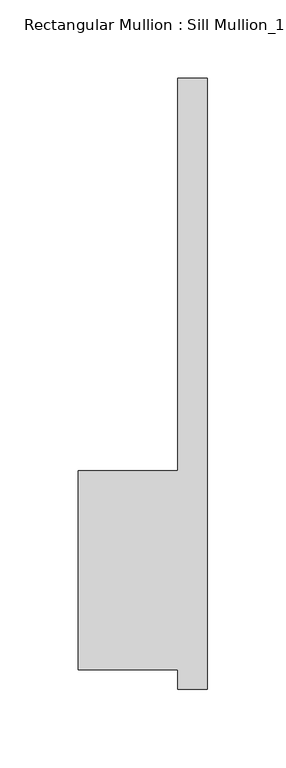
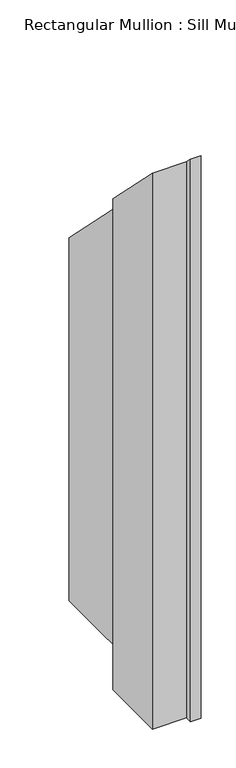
"""IFC4 building model written with IfcOpenShell, lengths in millimetres: member geometry."""

from ifc_helpers import new_model, si_unit, origin, place, context, project, spatial, faceted_brep, source, transform, mapped, element, save


def member_9cd78356(model_context):
    return source(origin(), model_context, "Body", "Brep", [
        faceted_brep([(-82.55, 50.8, -1012.825), (-19.05, 50.8, -1012.825), (-19.05, 301.625, -1012.825), (0.0, 301.625, -1012.825), (0.0, -88.9, -1012.825), (-19.05, -88.9, -1012.825), (-19.05, -76.2, -1012.825), (-82.55, -76.2, -1012.825), (-82.55, -76.2, 76.2), (-82.55, 50.8, -50.8), (-19.05, -76.2, 76.2), (-19.05, -88.9, 88.9), (0.0, -88.9, 88.9), (0.0, 301.625, -301.625), (-19.05, 301.625, -301.625), (-19.05, 50.8, -50.8)], [[[0, 1, 2, 3, 4, 5, 6, 7]], [[8, 9, 0, 7]], [[10, 8, 7, 6]], [[11, 10, 6, 5]], [[12, 11, 5, 4]], [[13, 12, 4, 3]], [[14, 13, 3, 2]], [[15, 14, 2, 1]], [[9, 15, 1, 0]], [[9, 8, 10, 11, 12, 13, 14, 15]]]),
    ])


if __name__ == "__main__":
    model = new_model("IFC4")
    model_context = context("Model", 3, world=origin())
    ifc_project = project(units=[si_unit("LENGTHUNIT", "METRE", prefix="MILLI")], contexts=[model_context])
    site = spatial("IfcSite", under=ifc_project)
    building = spatial("IfcBuilding", under=site)
    placement = place(None, origin())
    member_shape = member_9cd78356(model_context)
    element("IfcMember", 1, ObjectType="Rectangular Mullion : Sill Mullion_15\" thick wall", at=placement, inside=building, context=model_context, shape_type="MappedRepresentation", body=[
        mapped(member_shape, transform((0.0, 0.0, 0.0), x_axis=(1.0, 0.0, 0.0), y_axis=(0.0, 1.0, 0.0), z_axis=(0.0, 0.0, 1.0))),
    ])
    save(model, "model.ifc")
